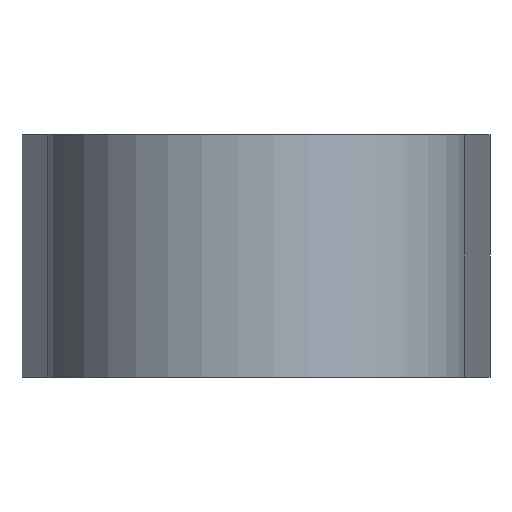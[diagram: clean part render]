
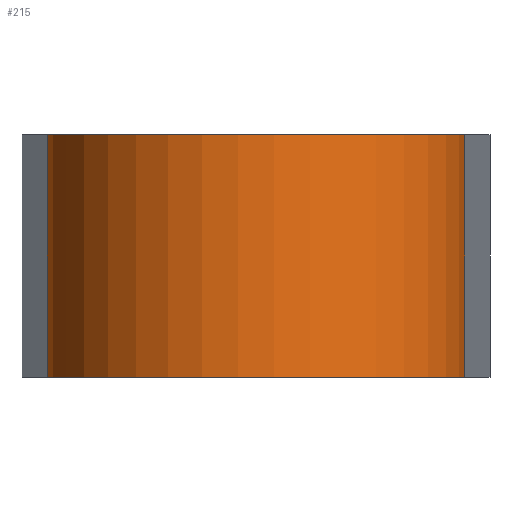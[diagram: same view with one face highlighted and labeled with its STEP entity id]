
A CAD part, left-side view. The second image highlights one B-rep face of the part: STEP entity #215.
In plain terms, the highlighted cylindrical face has radius 26 mm (diameter 52 mm), a partial arc.
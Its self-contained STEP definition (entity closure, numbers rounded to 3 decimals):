
#127=CYLINDRICAL_SURFACE('',#827,26.);
#156=CIRCLE('',#825,26.);
#157=CIRCLE('',#826,26.);
#215=ADVANCED_FACE('',(#272),#127,.T.);
#272=FACE_OUTER_BOUND('',#306,.T.);
#306=EDGE_LOOP('',(#387,#388,#389,#390));
#387=ORIENTED_EDGE('',*,*,#644,.F.);
#388=ORIENTED_EDGE('',*,*,#647,.T.);
#389=ORIENTED_EDGE('',*,*,#627,.T.);
#390=ORIENTED_EDGE('',*,*,#648,.F.);
#561=VERTEX_POINT('',#1162);
#562=VERTEX_POINT('',#1164);
#573=VERTEX_POINT('',#1198);
#574=VERTEX_POINT('',#1199);
#627=EDGE_CURVE('',#562,#561,#727,.T.);
#644=EDGE_CURVE('',#573,#574,#740,.T.);
#647=EDGE_CURVE('',#573,#562,#156,.T.);
#648=EDGE_CURVE('',#574,#561,#157,.T.);
#727=LINE('',#1163,#771);
#740=LINE('',#1197,#784);
#771=VECTOR('',#917,1.);
#784=VECTOR('',#950,1.);
#825=AXIS2_PLACEMENT_3D('',#1203,#955,#956);
#826=AXIS2_PLACEMENT_3D('',#1204,#957,#958);
#827=AXIS2_PLACEMENT_3D('',#1205,#959,#960);
#917=DIRECTION('',(0.,0.,1.));
#950=DIRECTION('',(0.,0.,1.));
#955=DIRECTION('',(0.,0.,1.));
#956=DIRECTION('',(1.,0.,0.));
#957=DIRECTION('',(0.,0.,1.));
#958=DIRECTION('',(1.,0.,0.));
#959=DIRECTION('',(0.,0.,1.));
#960=DIRECTION('',(-1.,0.,0.));
#1162=CARTESIAN_POINT('',(-2.342,-25.894,30.));
#1163=CARTESIAN_POINT('',(-2.342,-25.894,0.));
#1164=CARTESIAN_POINT('',(-2.342,-25.894,0.));
#1197=CARTESIAN_POINT('',(-2.342,25.894,0.));
#1198=CARTESIAN_POINT('',(-2.342,25.894,0.));
#1199=CARTESIAN_POINT('',(-2.342,25.894,30.));
#1203=CARTESIAN_POINT('',(0.,0.,0.));
#1204=CARTESIAN_POINT('',(0.,0.,30.));
#1205=CARTESIAN_POINT('',(0.,0.,0.));
